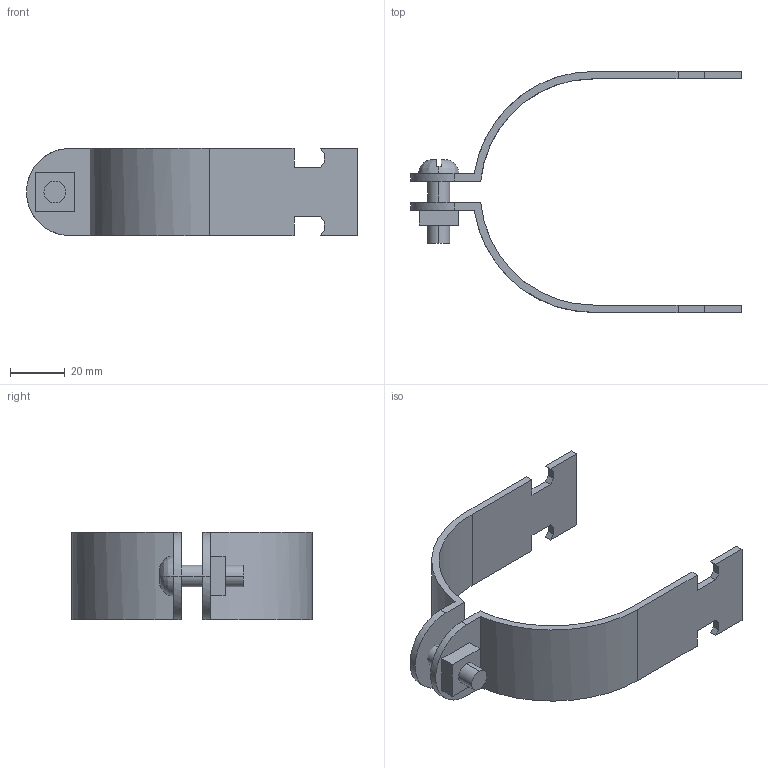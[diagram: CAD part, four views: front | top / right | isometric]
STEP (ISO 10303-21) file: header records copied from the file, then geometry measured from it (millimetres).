
FILE_DESCRIPTION(('TurboCAD Mac Pro'),'Build 980');
FILE_NAME('P2048.stp',' ',(''),(''),'ACIS Interop','IMSI','TurboCAD Mac Pro BY IMSI, INCORPORATED');
FILE_SCHEMA(('automotive_design'));
Length unit declared in the file: inch
Products named in the file (5): 1; 2; 3; 4; 5
Bounding box: 120.65 x 87.83 x 31.74 mm (x, y, z)
Volume: 25032.3 mm3; surface area: 20577.9 mm2
Topology: 4 solids, 4 shells, 75 faces, 194 edges, 128 vertices
Faces by surface type: plane 51, bspline 24
Entity records: 3631 total; most frequent: CARTESIAN_POINT 1138, ORIENTED_EDGE 388, DIRECTION 262, EDGE_CURVE 194, LINE 142, VECTOR 142, VERTEX_POINT 128, STYLED_ITEM 91
